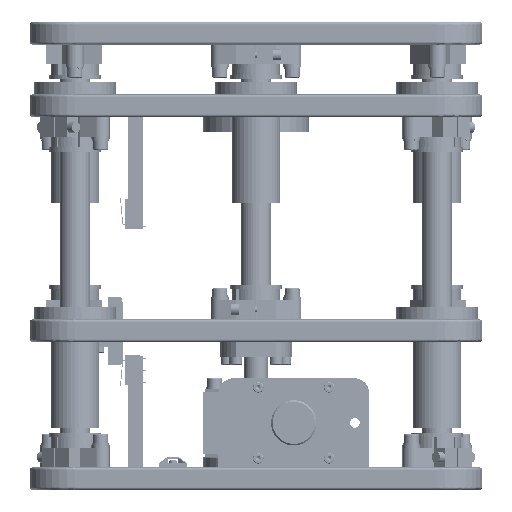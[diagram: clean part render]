
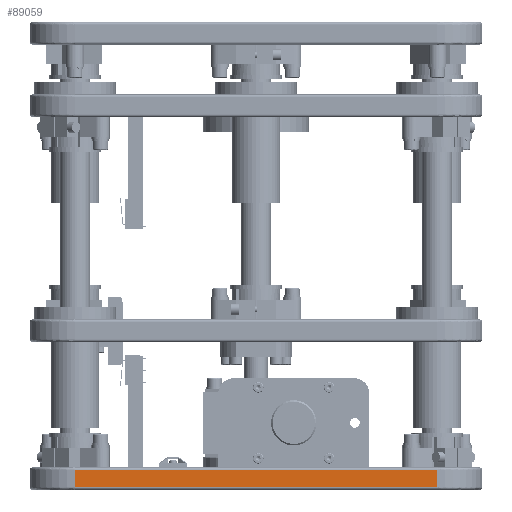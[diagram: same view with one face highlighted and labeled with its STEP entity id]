
A CAD part, left-side view. The second image highlights one B-rep face of the part: STEP entity #89059.
In plain terms, the highlighted planar face has unit normal (-1, 0, 0).
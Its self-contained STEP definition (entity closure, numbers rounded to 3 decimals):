
#1933 = AXIS2_PLACEMENT_3D ( 'NONE', #6272, #46575, #151041 ) ;
#5234 = DIRECTION ( 'NONE',  ( 0., 0., 1. ) ) ;
#6272 = CARTESIAN_POINT ( 'NONE',  ( -150., -150., 8.5 ) ) ;
#7231 = VECTOR ( 'NONE', #113243, 1000. ) ;
#9259 = VERTEX_POINT ( 'NONE', #15329 ) ;
#15329 = CARTESIAN_POINT ( 'NONE',  ( -150., 120., -4.5 ) ) ;
#17723 = DIRECTION ( 'NONE',  ( 0., 0., -1. ) ) ;
#22282 = CARTESIAN_POINT ( 'NONE',  ( -150., -150., -4.5 ) ) ;
#30655 = VECTOR ( 'NONE', #17723, 1000. ) ;
#35916 = ORIENTED_EDGE ( 'NONE', *, *, #73710, .F. ) ;
#46360 = EDGE_CURVE ( 'NONE', #51635, #46776, #164201, .T. ) ;
#46575 = DIRECTION ( 'NONE',  ( 1., 0., 0. ) ) ;
#46776 = VERTEX_POINT ( 'NONE', #97879 ) ;
#51635 = VERTEX_POINT ( 'NONE', #131545 ) ;
#57948 = VECTOR ( 'NONE', #126677, 1000. ) ;
#59103 = CARTESIAN_POINT ( 'NONE',  ( -150., -150., 6.5 ) ) ;
#59263 = PLANE ( 'NONE',  #1933 ) ;
#66229 = LINE ( 'NONE', #22282, #57948 ) ;
#66536 = EDGE_LOOP ( 'NONE', ( #35916, #129661, #148565, #111231 ) ) ;
#73710 = EDGE_CURVE ( 'NONE', #125628, #9259, #66229, .T. ) ;
#77171 = FACE_OUTER_BOUND ( 'NONE', #66536, .T. ) ;
#89059 = ADVANCED_FACE ( 'NONE', ( #77171 ), #59263, .F. ) ;
#96267 = CARTESIAN_POINT ( 'NONE',  ( -150., 120., 8.5 ) ) ;
#97879 = CARTESIAN_POINT ( 'NONE',  ( -150., -120., 6.5 ) ) ;
#111231 = ORIENTED_EDGE ( 'NONE', *, *, #156391, .F. ) ;
#113243 = DIRECTION ( 'NONE',  ( 0., -1., 0. ) ) ;
#115129 = EDGE_CURVE ( 'NONE', #46776, #125628, #135973, .T. ) ;
#119058 = CARTESIAN_POINT ( 'NONE',  ( -150., -120., -4.5 ) ) ;
#125628 = VERTEX_POINT ( 'NONE', #119058 ) ;
#126677 = DIRECTION ( 'NONE',  ( 0., 1., 0. ) ) ;
#129661 = ORIENTED_EDGE ( 'NONE', *, *, #115129, .F. ) ;
#131545 = CARTESIAN_POINT ( 'NONE',  ( -150., 120., 6.5 ) ) ;
#135780 = LINE ( 'NONE', #96267, #166846 ) ;
#135973 = LINE ( 'NONE', #148655, #30655 ) ;
#148565 = ORIENTED_EDGE ( 'NONE', *, *, #46360, .F. ) ;
#148655 = CARTESIAN_POINT ( 'NONE',  ( -150., -120., 8.5 ) ) ;
#151041 = DIRECTION ( 'NONE',  ( 0., 0., -1. ) ) ;
#156391 = EDGE_CURVE ( 'NONE', #9259, #51635, #135780, .T. ) ;
#164201 = LINE ( 'NONE', #59103, #7231 ) ;
#166846 = VECTOR ( 'NONE', #5234, 1000. ) ;
